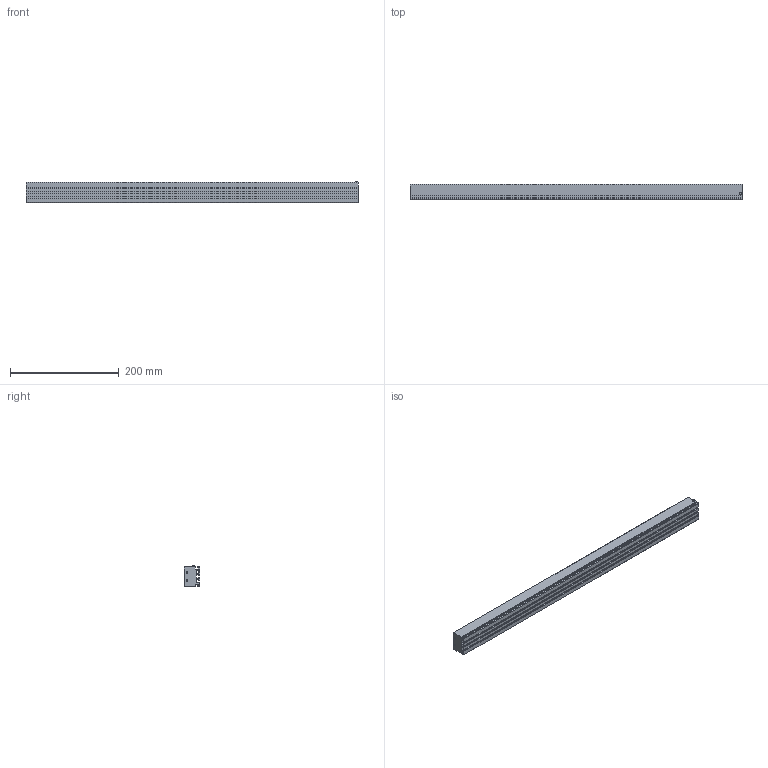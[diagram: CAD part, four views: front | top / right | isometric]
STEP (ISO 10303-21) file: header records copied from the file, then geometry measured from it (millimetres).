
FILE_DESCRIPTION (( 'STEP AP203' ), '1' );
FILE_NAME ('LRD-B6-610.STEP', '2022-08-25T06:03:49', ( 'TNT' ), ( '' ), 'SwSTEP 2.0', 'SolidWorks 2018', '' );
FILE_SCHEMA (( 'CONFIG_CONTROL_DESIGN' ));
Length unit declared in the file: millimetre
Products named in the file (1): LRD-B6-610
Bounding box: 610 x 27.7 x 39.1 mm (x, y, z)
Volume: 518291.5 mm3; surface area: 133017.8 mm2
Topology: 1 solids, 1 shells, 74 faces, 202 edges, 128 vertices
Faces by surface type: plane 56, cylinder 10, cone 8
Entity records: 2323 total; most frequent: CARTESIAN_POINT 397, ORIENTED_EDGE 388, DIRECTION 364, EDGE_CURVE 194, LINE 174, VECTOR 174, VERTEX_POINT 128, AXIS2_PLACEMENT_3D 95
